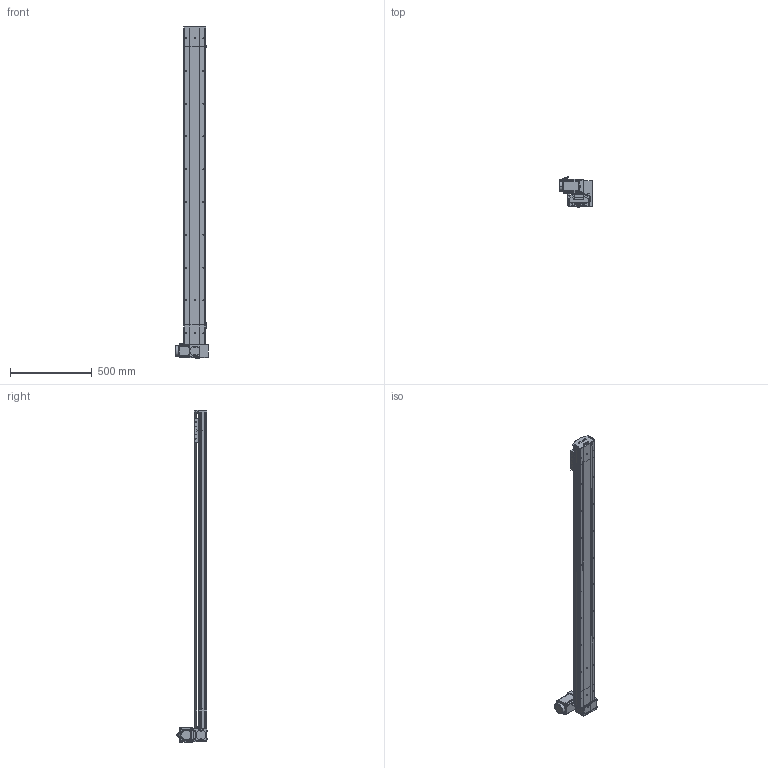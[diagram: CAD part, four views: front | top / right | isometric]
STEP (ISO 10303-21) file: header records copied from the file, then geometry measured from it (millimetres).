
FILE_DESCRIPTION (( 'STEP AP214' ), '1' );
FILE_NAME ('D14 TBH LT S1700.STEP', '2010-06-29T14:08:12', ( 'Conseil Régional Haute-Normandie' ), ( 'Conseil Régional Haute-Normandie' ), 'SwSTEP 2.0', 'SolidWorks 2010', '' );
FILE_SCHEMA (( 'AUTOMOTIVE_DESIGN' ));
Length unit declared in the file: millimetre
Products named in the file (39): couvercle D14 course L1700_Default; couvercle D14_Default; corpl tail D14_Default; poulie tail_Default; tete d''axe haut D14; plaque de  bout tail D14_Default; Arbre+rail tail D14; vis M5 L16_Default; chariot D14B_Default; Tail D14B_Default; vis M5 L8 90°_Default; Conecteur2_Default; codeur 90BLDC100-640; D14 TB H LT_Default; Cvis M5 L70_Default; couvercle D14 head_Default; Cache_Default; Cache arbre_Default; Arbre+rail head D14; poulie head_Default; Moteur motionking 90BLDC100A-640; plaque de  bout head D14 LT_Default; corp head D14_Default; couroie 2_Default; renvoi LH_Default; avant 90BLDC100A-640; Vis M5 L16-2_Default; vis M5 L5_Default; corps 90BLDC100A-640; Couroie_Default; Plaque racord D14_Default; Conecteur_Default; guide D14; Chariot D14; vis M5 L12_Default; Rail + couroie D14 Course 1700 ; D14 couroie L1700_Default; D14 TBH LT S1700; corpl 1700_Default
Assembly tree (68 placements, depth 4):
  D14 TBH LT S1700
    Tail D14B_Default
      vis M5 L16_Default  x2
      vis M5 L8 90°_Default  x2
      vis M5 L12_Default  x4
      tete d''axe haut D14
      corpl tail D14_Default
      couvercle D14_Default
      Arbre+rail tail D14
      plaque de  bout tail D14_Default
      Couroie_Default
      poulie tail_Default
    chariot D14B_Default
      vis M5 L12_Default  x4
      guide D14  x2
      Chariot D14
    D14 couroie L1700_Default
      couvercle D14 course L1700_Default
      corpl 1700_Default
      Rail + couroie D14 Course 1700 
    D14 TB H LT_Default
      vis M5 L12_Default  x12
      Vis M5 L16-2_Default  x4
      Plaque racord D14_Default
      Cvis M5 L70_Default  x4
      Arbre+rail head D14
      renvoi LH_Default
      corp head D14_Default
      vis M5 L5_Default  x2
      poulie head_Default
      couvercle D14 head_Default
      couroie 2_Default
      plaque de  bout head D14 LT_Default
      Cache arbre_Default
      Cache_Default  x2
      Moteur motionking 90BLDC100A-640
        avant 90BLDC100A-640
        corps 90BLDC100A-640
        Conecteur_Default
        Conecteur2_Default
        codeur 90BLDC100-640
Bounding box: 207.2 x 189.1 x 2025.75 mm (x, y, z)
Volume: 8215560 mm3; surface area: 2831835.5 mm2
Topology: 92 solids, 92 shells, 2661 faces, 6503 edges, 4194 vertices
Faces by surface type: plane 1597, cylinder 751, bspline 136, torus 89, cone 84, sphere 4
Entity records: 80108 total; most frequent: CARTESIAN_POINT 23697, ORIENTED_EDGE 9866, DIRECTION 9680, EDGE_CURVE 4933, VECTOR 3298, LINE 3298, VERTEX_POINT 3244, AXIS2_PLACEMENT_3D 3191
